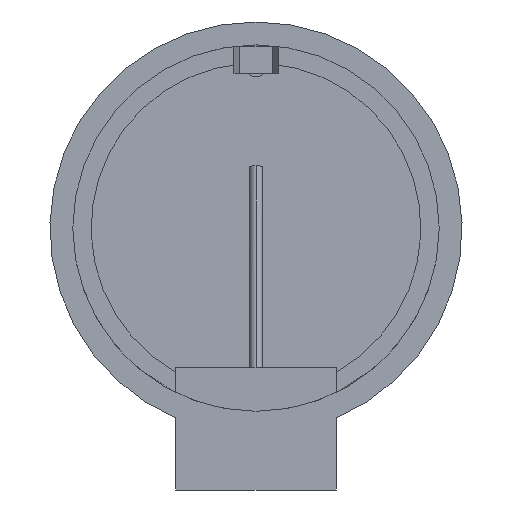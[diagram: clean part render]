
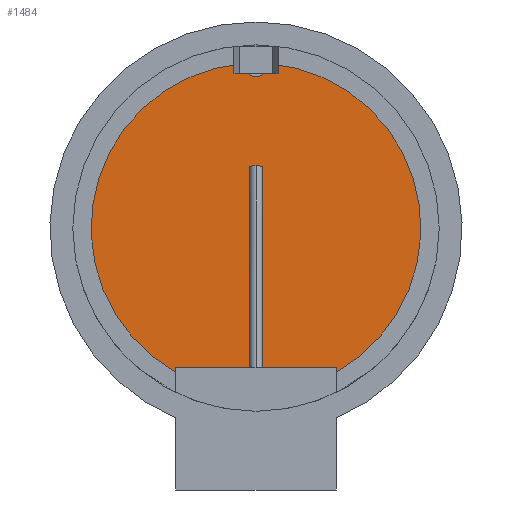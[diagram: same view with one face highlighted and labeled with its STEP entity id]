
A CAD part, front view. The second image highlights one B-rep face of the part: STEP entity #1484.
In plain terms, the highlighted planar face has unit normal (0, -1, 0).
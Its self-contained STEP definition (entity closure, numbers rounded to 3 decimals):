
#466=CARTESIAN_POINT('',(0.,-86.,0.));
#467=DIRECTION('',(0.,-1.,0.));
#468=DIRECTION('',(0.486,0.,-0.874));
#469=AXIS2_PLACEMENT_3D('',#466,#467,#468);
#493=CARTESIAN_POINT('',(0.,-86.,0.));
#494=DIRECTION('',(0.,-1.,0.));
#495=DIRECTION('',(-0.078,0.,0.997));
#496=AXIS2_PLACEMENT_3D('',#493,#494,#495);
#562=DIRECTION('',(-1.,0.,0.));
#563=VECTOR('',#562,350.);
#564=CARTESIAN_POINT('',(175.,-86.,-305.));
#565=LINE('',#564,#563);
#566=DIRECTION('',(0.,0.,1.));
#567=VECTOR('',#566,9.603);
#568=CARTESIAN_POINT('',(-175.,-86.,-314.603));
#569=LINE('',#568,#567);
#570=CARTESIAN_POINT('',(0.,-86.,359.));
#571=DIRECTION('',(0.,1.,0.));
#572=DIRECTION('',(1.,0.,-0.003));
#573=AXIS2_PLACEMENT_3D('',#570,#571,#572);
#575=DIRECTION('',(0.,0.,-1.));
#576=VECTOR('',#575,9.603);
#577=CARTESIAN_POINT('',(175.,-86.,-305.));
#578=LINE('',#577,#576);
#805=CARTESIAN_POINT('',(28.,-86.,358.909));
#806=CARTESIAN_POINT('',(-28.,-86.,358.909));
#807=VERTEX_POINT('',#805);
#808=VERTEX_POINT('',#806);
#853=CARTESIAN_POINT('',(175.,-86.,-305.));
#854=CARTESIAN_POINT('',(-175.,-86.,-305.));
#855=VERTEX_POINT('',#853);
#856=VERTEX_POINT('',#854);
#895=CARTESIAN_POINT('',(175.,-86.,-314.603));
#896=VERTEX_POINT('',#895);
#897=CARTESIAN_POINT('',(-175.,-86.,-314.603));
#898=VERTEX_POINT('',#897);
#1470=CARTESIAN_POINT('',(0.,-86.,0.));
#1471=DIRECTION('',(0.,-1.,0.));
#1472=DIRECTION('',(1.,0.,0.));
#1473=AXIS2_PLACEMENT_3D('',#1470,#1471,#1472);
#1474=PLANE('',#1473);
#1475=ORIENTED_EDGE('',*,*,#1449,.T.);
#1476=ORIENTED_EDGE('',*,*,#1315,.F.);
#1477=ORIENTED_EDGE('',*,*,#1375,.F.);
#1479=ORIENTED_EDGE('',*,*,#1478,.F.);
#1480=ORIENTED_EDGE('',*,*,#1358,.F.);
#1481=ORIENTED_EDGE('',*,*,#1390,.F.);
#1482=EDGE_LOOP('',(#1475,#1476,#1477,#1479,#1480,#1481));
#1483=FACE_OUTER_BOUND('',#1482,.F.);
#470=CIRCLE('',#469,360.);
#497=CIRCLE('',#496,360.);
#574=CIRCLE('',#573,28.);
#1315=EDGE_CURVE('',#898,#856,#569,.T.);
#1358=EDGE_CURVE('',#896,#807,#470,.T.);
#1375=EDGE_CURVE('',#808,#898,#497,.T.);
#1390=EDGE_CURVE('',#855,#896,#578,.T.);
#1449=EDGE_CURVE('',#855,#856,#565,.T.);
#1478=EDGE_CURVE('',#807,#808,#574,.T.);
#1484=ADVANCED_FACE('',(#1483),#1474,.T.);
